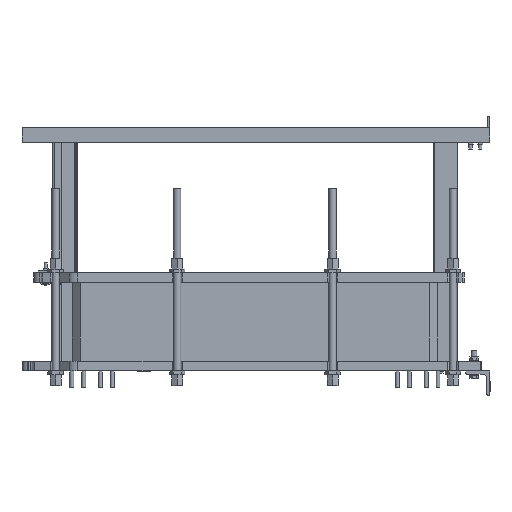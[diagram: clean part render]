
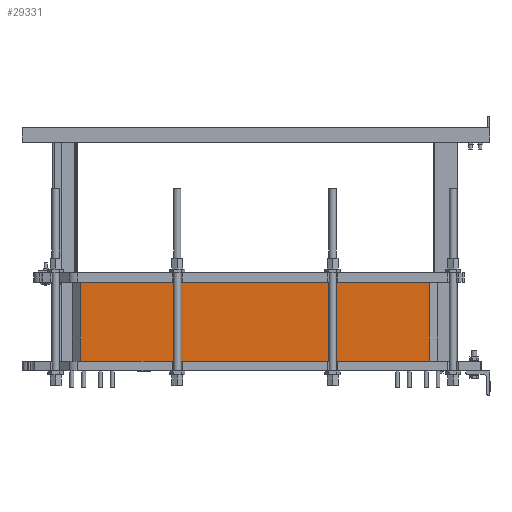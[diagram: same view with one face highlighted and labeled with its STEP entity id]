
A CAD part, left-side view. The second image highlights one B-rep face of the part: STEP entity #29331.
In plain terms, the highlighted planar face has unit normal (-1, 0, 0).
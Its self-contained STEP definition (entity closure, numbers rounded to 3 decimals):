
#21680=CARTESIAN_POINT('',(-187.5,705.0,364.0));
#21681=VERTEX_POINT('',#21680);
#21688=CARTESIAN_POINT('',(-187.5,-731.0,364.0));
#21689=VERTEX_POINT('',#21688);
#21690=CARTESIAN_POINT('',(-187.5,-731.0,364.0));
#21691=DIRECTION('',(0.0,1.0,0.0));
#21692=VECTOR('',#21691,1436.0);
#21693=LINE('',#21690,#21692);
#21694=EDGE_CURVE('',#21689,#21681,#21693,.T.);
#28280=CARTESIAN_POINT('',(-187.5,-731.0,40.0));
#28281=VERTEX_POINT('',#28280);
#28288=CARTESIAN_POINT('',(-187.5,705.0,40.0));
#28289=VERTEX_POINT('',#28288);
#28290=CARTESIAN_POINT('',(-187.5,-731.0,40.0));
#28291=DIRECTION('',(0.0,1.0,0.0));
#28292=VECTOR('',#28291,1436.0);
#28293=LINE('',#28290,#28292);
#28294=EDGE_CURVE('',#28281,#28289,#28293,.T.);
#29306=CARTESIAN_POINT('',(-187.5,705.0,40.0));
#29307=DIRECTION('',(0.0,0.0,1.0));
#29308=VECTOR('',#29307,324.0);
#29309=LINE('',#29306,#29308);
#29310=EDGE_CURVE('',#28289,#21681,#29309,.T.);
#29315=CARTESIAN_POINT('',(-187.5,-731.0,40.0));
#29316=DIRECTION('',(-1.0,0.0,0.0));
#29317=DIRECTION('',(0.0,0.0,1.0));
#29318=AXIS2_PLACEMENT_3D('',#29315,#29316,#29317);
#29319=PLANE('',#29318);
#29320=ORIENTED_EDGE('',*,*,#21694,.T.);
#29321=ORIENTED_EDGE('',*,*,#29310,.F.);
#29322=ORIENTED_EDGE('',*,*,#28294,.F.);
#29323=CARTESIAN_POINT('',(-187.5,-731.0,40.0));
#29324=DIRECTION('',(0.0,0.0,1.0));
#29325=VECTOR('',#29324,324.0);
#29326=LINE('',#29323,#29325);
#29327=EDGE_CURVE('',#28281,#21689,#29326,.T.);
#29328=ORIENTED_EDGE('',*,*,#29327,.T.);
#29329=EDGE_LOOP('',(#29320,#29321,#29322,#29328));
#29330=FACE_OUTER_BOUND('',#29329,.T.);
#29331=ADVANCED_FACE('',(#29330),#29319,.T.);
